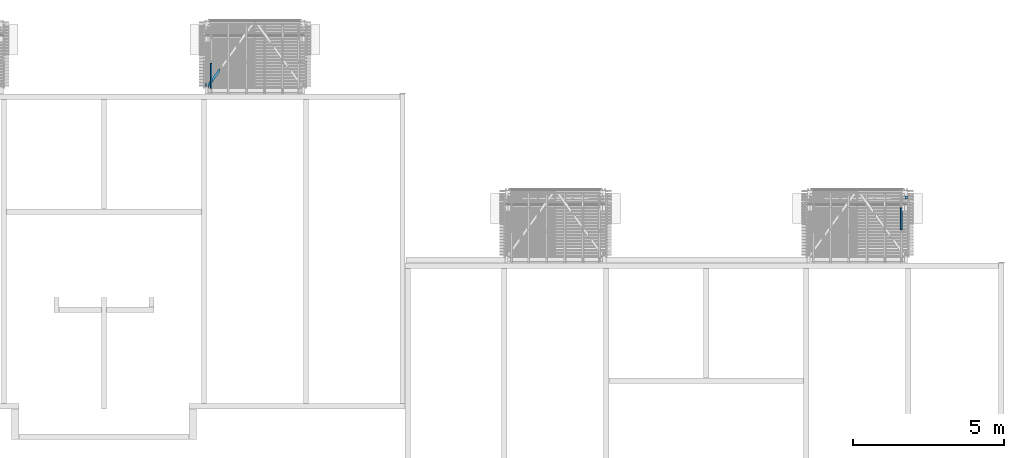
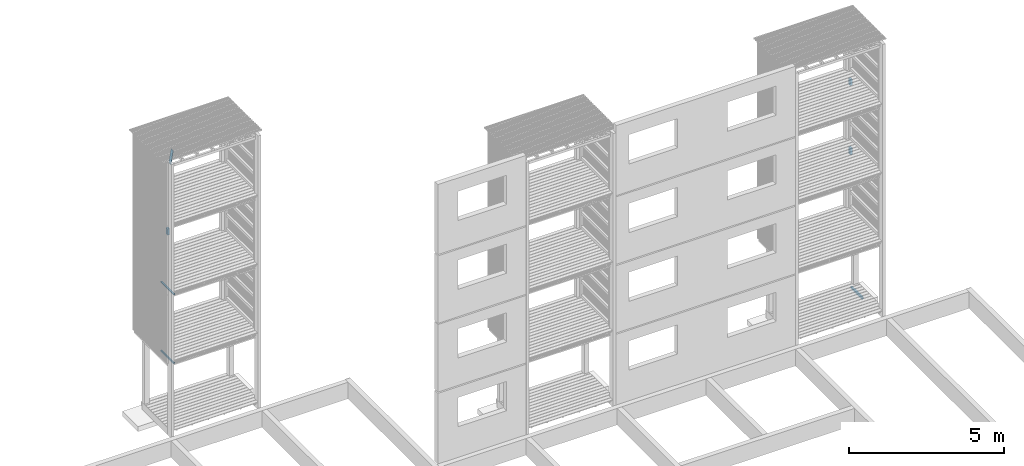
# One storey, part 177 of 182: 7 beams.
"""IFC2X3 building model written with IfcOpenShell, lengths in metres."""

from ifc_helpers import new_model, si_unit, frame, origin, place, context, project, spatial, faceted_brep, element, save


model = new_model("IFC2X3")

# Units and contexts
model_context = context("Model", 3, precision=1e-06, world=origin())
ifc_project = project(units=[si_unit("LENGTHUNIT", "METRE"), si_unit("PLANEANGLEUNIT", "RADIAN")], contexts=[model_context])

# Site, building, storey
site = spatial("IfcSite", under=ifc_project, CompositionType="ELEMENT")
building = spatial("IfcBuilding", under=site, CompositionType="ELEMENT")
storey = spatial("IfcBuildingStorey", under=building, Name="vs", CompositionType="ELEMENT", Elevation=-0.85)

# Beams
placement = place(None, origin())
beam_1_placement = place(placement, frame((56.314999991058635, 7.040077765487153, 4.85796194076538), z_axis=(0.0, -1.0, 0.0), x_axis=(0.0, 0.0, 1.0)))
element("IfcBeam", 1, at=beam_1_placement, inside=storey, Name="Support bardage", context=model_context, shape_type="Brep", body=[
    faceted_brep([(0.267038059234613, -0.039999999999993, -0.05), (0.267038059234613, 0.04000000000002, -0.05), (0.267038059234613, 0.04000000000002, 0.050000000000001), (0.267038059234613, -0.039999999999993, 0.050000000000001), (0.267038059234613, -0.039999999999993, -0.05), (0.267038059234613, -0.039999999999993, 0.050000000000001), (0.0, -0.039999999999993, 0.050000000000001), (0.0, -0.039999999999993, -0.05), (0.267038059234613, 0.04000000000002, -0.05), (0.267038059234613, -0.039999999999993, -0.05), (0.0, -0.039999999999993, -0.05), (0.0, 0.04000000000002, -0.05), (0.0, -0.039999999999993, 0.050000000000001), (0.267038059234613, -0.039999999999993, 0.050000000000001), (0.267038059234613, 0.04000000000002, 0.050000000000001), (0.0, 0.04000000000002, 0.050000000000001), (0.0, 0.04000000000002, 0.050000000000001), (0.267038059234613, 0.04000000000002, 0.050000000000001), (0.267038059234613, 0.04000000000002, -0.05), (0.0, 0.04000000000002, -0.05), (0.0, -0.039999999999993, 0.050000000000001), (0.0, 0.04000000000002, 0.050000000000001), (0.0, 0.04000000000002, -0.05), (0.0, -0.039999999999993, -0.05)], [[[0, 1, 2, 3]], [[4, 5, 6, 7]], [[8, 9, 10, 11]], [[12, 13, 14, 15]], [[16, 17, 18, 19]], [[20, 21, 22, 23]]]),
])
beam_2_placement = place(placement, frame((33.122528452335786, 10.673435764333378, 10.404999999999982), z_axis=(0.0, 0.0, 1.0), x_axis=(0.583951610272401, 0.811788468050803, 0.0)))
element("IfcBeam", 2, at=beam_2_placement, inside=storey, Name="Support bardage", context=model_context, shape_type="Brep", body=[
    faceted_brep([(0.670717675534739, -0.039999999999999, 0.050000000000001), (0.670717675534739, -0.039999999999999, -0.050000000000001), (0.781930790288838, 0.040000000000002, -0.050000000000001), (0.781930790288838, 0.040000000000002, 0.050000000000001), (4e-15, -0.040000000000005, 0.050000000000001), (0.670717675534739, -0.039999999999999, 0.050000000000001), (0.781930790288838, 0.040000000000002, 0.050000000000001), (0.111213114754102, 0.039999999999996, 0.050000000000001), (0.111213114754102, 0.039999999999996, -0.049999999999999), (0.781930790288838, 0.040000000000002, -0.050000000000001), (0.670717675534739, -0.039999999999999, -0.050000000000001), (4e-15, -0.040000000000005, -0.050000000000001), (4e-15, -0.040000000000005, -0.050000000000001), (0.670717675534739, -0.039999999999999, -0.050000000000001), (0.670717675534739, -0.039999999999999, 0.050000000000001), (4e-15, -0.040000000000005, 0.050000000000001), (0.111213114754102, 0.039999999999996, -0.049999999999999), (4e-15, -0.040000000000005, -0.050000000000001), (4e-15, -0.040000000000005, 0.050000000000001), (0.111213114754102, 0.039999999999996, 0.050000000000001), (0.111213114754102, 0.039999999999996, -0.049999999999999), (0.111213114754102, 0.039999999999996, 0.050000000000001), (0.781930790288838, 0.040000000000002, 0.050000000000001), (0.781930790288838, 0.040000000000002, -0.050000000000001)], [[[0, 1, 2, 3]], [[4, 5, 6, 7]], [[8, 9, 10, 11]], [[12, 13, 14, 15]], [[16, 17, 18, 19]], [[20, 21, 22, 23]]]),
])
beam_3_placement = place(placement, frame((33.09499999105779, 10.760077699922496, 7.576188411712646), z_axis=(0.0, 1.0, 0.0), x_axis=(0.0, 0.0, 1.0)))
element("IfcBeam", 3, at=beam_3_placement, inside=storey, Name="Support bardage", context=model_context, shape_type="Brep", body=[
    faceted_brep([(0.248811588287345, -0.039999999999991, 0.05), (0.248811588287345, -0.039999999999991, -0.050000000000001), (0.248811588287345, 0.040000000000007, -0.050000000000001), (0.248811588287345, 0.040000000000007, 0.05), (0.248811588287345, 0.040000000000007, -0.050000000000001), (0.248811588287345, -0.039999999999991, -0.050000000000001), (0.0, -0.039999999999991, -0.050000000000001), (0.0, 0.040000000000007, -0.050000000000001), (0.248811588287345, -0.039999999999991, -0.050000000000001), (0.248811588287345, -0.039999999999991, 0.05), (0.0, -0.039999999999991, 0.05), (0.0, -0.039999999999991, -0.050000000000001), (0.248811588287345, -0.039999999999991, 0.05), (0.248811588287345, 0.040000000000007, 0.05), (0.0, 0.040000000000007, 0.05), (0.0, -0.039999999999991, 0.05), (0.248811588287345, 0.040000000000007, 0.05), (0.248811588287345, 0.040000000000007, -0.050000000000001), (0.0, 0.040000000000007, -0.050000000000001), (0.0, 0.040000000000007, 0.05), (0.0, -0.039999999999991, 0.05), (0.0, 0.040000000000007, 0.05), (0.0, 0.040000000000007, -0.050000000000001), (0.0, -0.039999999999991, -0.050000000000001)], [[[0, 1, 2, 3]], [[4, 5, 6, 7]], [[8, 9, 10, 11]], [[12, 13, 14, 15]], [[16, 17, 18, 19]], [[20, 21, 22, 23]]]),
])
beam_4_placement = place(placement, frame((33.26499999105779, 10.655077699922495, 2.517999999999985), z_axis=(0.0, 0.0, 1.0), x_axis=(0.0, 1.0, 0.0)))
element("IfcBeam", 4, at=beam_4_placement, inside=storey, Name="Calage", context=model_context, shape_type="Brep", body=[
    faceted_brep([(0.824999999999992, -0.025000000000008, 0.025), (0.824999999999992, 0.024999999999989, 0.025), (-1e-15, 0.024999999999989, 0.025), (-1e-15, -0.025000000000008, 0.025), (-1e-15, 0.024999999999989, 0.025), (0.824999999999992, 0.024999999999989, 0.025), (0.824999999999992, 0.024999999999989, -0.025), (-1e-15, 0.024999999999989, -0.025), (0.824999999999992, 0.024999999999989, 0.025), (0.824999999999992, -0.025000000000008, 0.025), (0.824999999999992, -0.025000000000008, -0.025), (0.824999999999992, 0.024999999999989, -0.025), (0.824999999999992, -0.025000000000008, -0.025), (0.824999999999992, -0.025000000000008, 0.025), (-1e-15, -0.025000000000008, 0.025), (-1e-15, -0.025000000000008, -0.025), (-1e-15, 0.024999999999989, -0.025), (0.824999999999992, 0.024999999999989, -0.025), (0.824999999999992, -0.025000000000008, -0.025), (-1e-15, -0.025000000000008, -0.025), (-1e-15, 0.024999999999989, 0.025), (-1e-15, 0.024999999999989, -0.025), (-1e-15, -0.025000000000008, -0.025), (-1e-15, -0.025000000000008, 0.025)], [[[0, 1, 2, 3]], [[4, 5, 6, 7]], [[8, 9, 10, 11]], [[12, 13, 14, 15]], [[16, 17, 18, 19]], [[20, 21, 22, 23]]]),
])
beam_5_placement = place(placement, frame((33.26499999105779, 10.655077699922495, 5.217999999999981), z_axis=(0.0, 0.0, 1.0), x_axis=(0.0, 1.0, 0.0)))
element("IfcBeam", 5, at=beam_5_placement, inside=storey, Name="Calage", context=model_context, shape_type="Brep", body=[
    faceted_brep([(0.824999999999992, -0.025000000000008, 0.024999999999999), (0.824999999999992, 0.024999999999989, 0.024999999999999), (-1e-15, 0.024999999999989, 0.024999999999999), (-1e-15, -0.025000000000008, 0.024999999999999), (-1e-15, 0.024999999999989, 0.024999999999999), (0.824999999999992, 0.024999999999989, 0.024999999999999), (0.824999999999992, 0.024999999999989, -0.025), (-1e-15, 0.024999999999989, -0.025), (0.824999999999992, 0.024999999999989, 0.024999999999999), (0.824999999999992, -0.025000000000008, 0.024999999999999), (0.824999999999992, -0.025000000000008, -0.025), (0.824999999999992, 0.024999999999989, -0.025), (0.824999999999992, -0.025000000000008, -0.025), (0.824999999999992, -0.025000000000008, 0.024999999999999), (-1e-15, -0.025000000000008, 0.024999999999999), (-1e-15, -0.025000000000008, -0.025), (-1e-15, 0.024999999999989, -0.025), (0.824999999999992, 0.024999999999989, -0.025), (0.824999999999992, -0.025000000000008, -0.025), (-1e-15, -0.025000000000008, -0.025), (-1e-15, 0.024999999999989, 0.024999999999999), (-1e-15, 0.024999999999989, -0.025), (-1e-15, -0.025000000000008, -0.025), (-1e-15, -0.025000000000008, 0.024999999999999)], [[[0, 1, 2, 3]], [[4, 5, 6, 7]], [[8, 9, 10, 11]], [[12, 13, 14, 15]], [[16, 17, 18, 19]], [[20, 21, 22, 23]]]),
])
beam_6_placement = place(placement, frame((56.14499999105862, 5.965077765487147, -0.091949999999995), z_axis=(0.0, 0.0, 1.0), x_axis=(0.0, 1.0, 0.0)))
element("IfcBeam", 6, at=beam_6_placement, inside=storey, Name="Solive", context=model_context, shape_type="Brep", body=[
    faceted_brep([(0.0, -0.03, -0.04805), (0.0, 0.030000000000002, -0.04805), (0.725000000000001, 0.030000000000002, -0.04805), (0.725000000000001, -0.03, -0.04805), (0.725000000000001, -0.03, 0.033549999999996), (0.0, -0.03, 0.048049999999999), (0.0, -0.03, -0.04805), (0.725000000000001, -0.03, -0.04805), (0.0, -0.03, 0.048049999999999), (0.725000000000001, -0.03, 0.033549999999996), (0.725000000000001, 0.030000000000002, 0.033549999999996), (0.0, 0.030000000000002, 0.048049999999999), (0.0, -0.03, 0.048049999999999), (0.0, 0.030000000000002, 0.048049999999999), (0.0, 0.030000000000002, -0.04805), (0.0, -0.03, -0.04805), (0.0, 0.030000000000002, -0.04805), (0.0, 0.030000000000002, 0.048049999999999), (0.725000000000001, 0.030000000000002, 0.033549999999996), (0.725000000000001, 0.030000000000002, -0.04805), (0.725000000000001, -0.03, 0.033549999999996), (0.725000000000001, -0.03, -0.04805), (0.725000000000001, 0.030000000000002, -0.04805), (0.725000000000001, 0.030000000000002, 0.033549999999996)], [[[0, 1, 2, 3]], [[4, 5, 6, 7]], [[8, 9, 10, 11]], [[12, 13, 14, 15]], [[16, 17, 18, 19]], [[20, 21, 22, 23]]]),
])
beam_7_placement = place(placement, frame((56.314999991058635, 7.040077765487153, 7.576188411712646), z_axis=(0.0, -1.0, 0.0), x_axis=(0.0, 0.0, 1.0)))
element("IfcBeam", 7, at=beam_7_placement, inside=storey, Name="Support bardage", context=model_context, shape_type="Brep", body=[
    faceted_brep([(0.248811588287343, -0.039999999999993, -0.05), (0.248811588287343, 0.04000000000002, -0.05), (0.248811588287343, 0.04000000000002, 0.050000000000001), (0.248811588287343, -0.039999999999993, 0.050000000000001), (0.248811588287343, -0.039999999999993, -0.05), (0.248811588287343, -0.039999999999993, 0.050000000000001), (0.0, -0.039999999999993, 0.050000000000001), (0.0, -0.039999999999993, -0.05), (0.0, -0.039999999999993, 0.050000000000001), (0.248811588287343, -0.039999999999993, 0.050000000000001), (0.248811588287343, 0.04000000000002, 0.050000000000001), (0.0, 0.04000000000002, 0.050000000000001), (0.0, 0.04000000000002, 0.050000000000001), (0.248811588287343, 0.04000000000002, 0.050000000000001), (0.248811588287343, 0.04000000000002, -0.05), (0.0, 0.04000000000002, -0.05), (0.0, 0.04000000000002, -0.05), (0.248811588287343, 0.04000000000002, -0.05), (0.248811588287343, -0.039999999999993, -0.05), (0.0, -0.039999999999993, -0.05), (0.0, 0.04000000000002, 0.050000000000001), (0.0, 0.04000000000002, -0.05), (0.0, -0.039999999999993, -0.05), (0.0, -0.039999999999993, 0.050000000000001)], [[[0, 1, 2, 3]], [[4, 5, 6, 7]], [[8, 9, 10, 11]], [[12, 13, 14, 15]], [[16, 17, 18, 19]], [[20, 21, 22, 23]]]),
])

save(model, "model.ifc")
